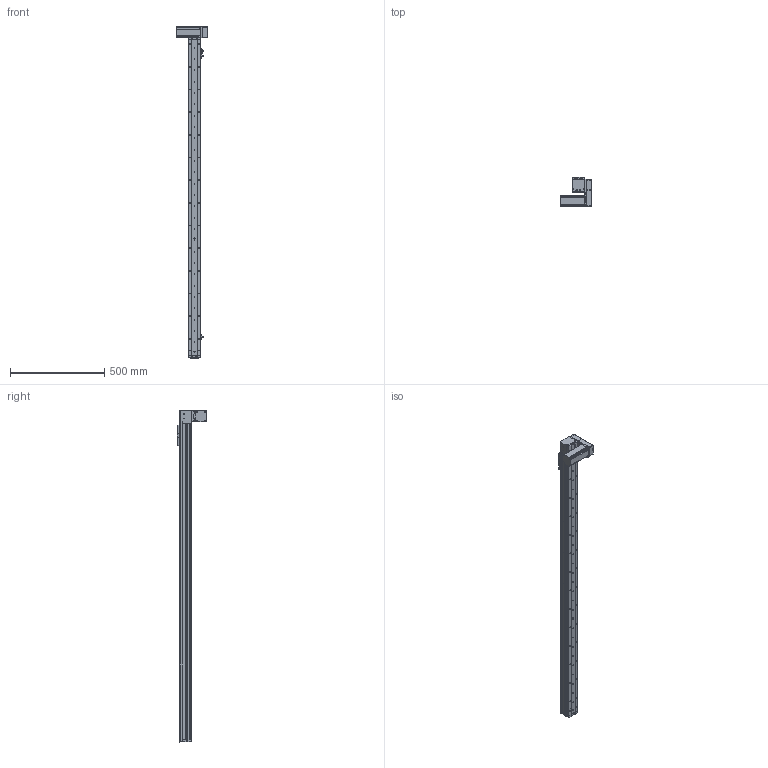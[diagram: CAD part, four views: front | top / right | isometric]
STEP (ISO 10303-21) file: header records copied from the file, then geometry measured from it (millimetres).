
FILE_DESCRIPTION (( 'STEP AP214' ), '1' );
FILE_NAME ('KSD68BS-S1500-MLD-CR.STEP', '2019-08-27T06:02:13', ( '微软用户' ), ( '微软中国' ), 'SwSTEP 2.0', 'SolidWorks 2014', '' );
FILE_SCHEMA (( 'AUTOMOTIVE_DESIGN' ));
Length unit declared in the file: millimetre
Products named in the file (14): 68宽单导轨全封闭丝杆传动安装板1防护罩; KSD68BS 1500行程侧板全封闭; 68宽单导轨全封闭同步带端板; 68单导轨全封闭同步带电机座左; 68单导轨全封闭同步带安装板; 悵誘欶奻狟殏; 68宽马达安装板连板上折同步带; 感应片68宽全封闭; KSD68BS 1500行程盖板全封闭; U倰嫖萇EEㄜSX672; 68遵裔啣揤啣1; 台达ECMA－C20604AS伺服电机（400W); KSD68BS 1500行程底板全封闭; KSD68BS-S1500-MLD-CR
Assembly tree (17 placements, depth 2):
  KSD68BS-S1500-MLD-CR
    KSD68BS 1500行程底板全封闭
    台达ECMA－C20604AS伺服电机（400W)
    U倰嫖萇EEㄜSX672  x3
    感应片68宽全封闭
    68宽马达安装板连板上折同步带
    悵誘欶奻狟殏
    68单导轨全封闭同步带安装板
    68单导轨全封闭同步带电机座左
    68宽单导轨全封闭同步带端板
    KSD68BS 1500行程侧板全封闭  x2
    68宽单导轨全封闭丝杆传动安装板1防护罩
    68遵裔啣揤啣1  x2
    KSD68BS 1500行程盖板全封闭
Bounding box: 167.2 x 155.5 x 1758.1 mm (x, y, z)
Volume: 3209811.6 mm3; surface area: 1289962.9 mm2
Topology: 18 solids, 18 shells, 1601 faces, 4607 edges, 2936 vertices
Faces by surface type: cylinder 784, plane 629, cone 188
Entity records: 52151 total; most frequent: CARTESIAN_POINT 9103, DIRECTION 7758, ORIENTED_EDGE 7426, EDGE_CURVE 3713, AXIS2_PLACEMENT_3D 2827, VERTEX_POINT 2434, LINE 2104, VECTOR 2104
